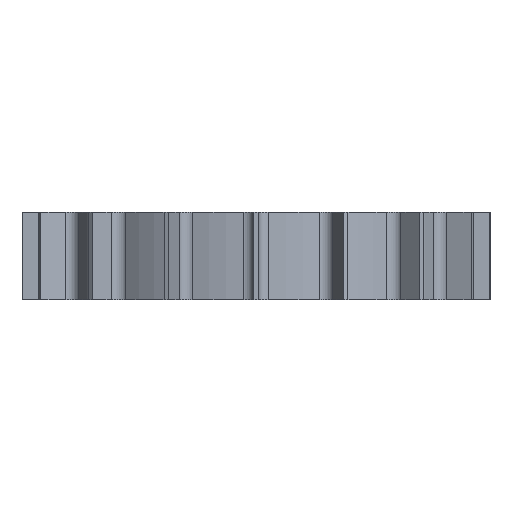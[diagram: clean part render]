
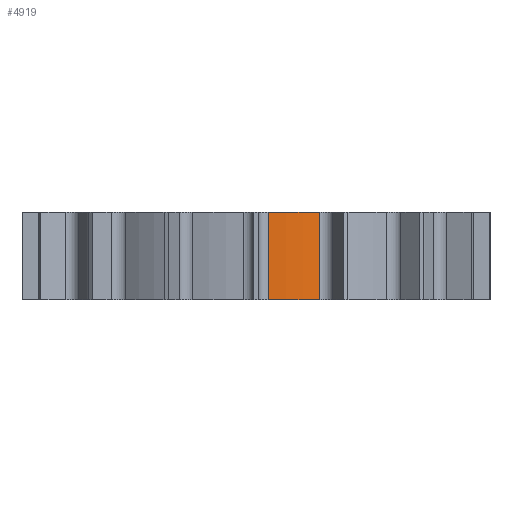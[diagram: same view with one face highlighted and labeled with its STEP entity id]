
A CAD part, front view. The second image highlights one B-rep face of the part: STEP entity #4919.
In plain terms, the highlighted cylindrical face has radius 56.5 mm (diameter 113 mm), a partial arc.
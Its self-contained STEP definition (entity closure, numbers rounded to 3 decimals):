
#43 = EDGE_CURVE ( 'NONE', #939, #5596, #8024, .T. ) ;
#73 = ORIENTED_EDGE ( 'NONE', *, *, #4828, .F. ) ;
#545 = EDGE_LOOP ( 'NONE', ( #2137, #5282, #73, #6822 ) ) ;
#939 = VERTEX_POINT ( 'NONE', #5582 ) ;
#1272 = DIRECTION ( 'NONE',  ( 1., 0., 0. ) ) ;
#1487 = CARTESIAN_POINT ( 'NONE',  ( 18.289, -53.458, 25. ) ) ;
#2137 = ORIENTED_EDGE ( 'NONE', *, *, #43, .T. ) ;
#2454 = CARTESIAN_POINT ( 'NONE',  ( 0., 0., 0. ) ) ;
#2834 = CARTESIAN_POINT ( 'NONE',  ( 18.289, -53.458, 0. ) ) ;
#2892 = AXIS2_PLACEMENT_3D ( 'NONE', #8128, #3492, #8052 ) ;
#3099 = EDGE_CURVE ( 'NONE', #939, #3638, #6302, .T. ) ;
#3173 = VECTOR ( 'NONE', #3222, 1000. ) ;
#3222 = DIRECTION ( 'NONE',  ( 0., 0., 1. ) ) ;
#3492 = DIRECTION ( 'NONE',  ( 0., 0., -1. ) ) ;
#3638 = VERTEX_POINT ( 'NONE', #3652 ) ;
#3652 = CARTESIAN_POINT ( 'NONE',  ( 3.561, -56.388, 25. ) ) ;
#4106 = FACE_OUTER_BOUND ( 'NONE', #545, .T. ) ;
#4285 = AXIS2_PLACEMENT_3D ( 'NONE', #2454, #8378, #7130 ) ;
#4315 = VERTEX_POINT ( 'NONE', #1487 ) ;
#4598 = VECTOR ( 'NONE', #7599, 1000. ) ;
#4828 = EDGE_CURVE ( 'NONE', #3638, #4315, #7466, .T. ) ;
#4919 = ADVANCED_FACE ( 'NONE', ( #4106 ), #7453, .T. ) ;
#5039 = CARTESIAN_POINT ( 'NONE',  ( 3.561, -56.388, -12.781 ) ) ;
#5282 = ORIENTED_EDGE ( 'NONE', *, *, #5289, .T. ) ;
#5289 = EDGE_CURVE ( 'NONE', #5596, #4315, #6527, .T. ) ;
#5582 = CARTESIAN_POINT ( 'NONE',  ( 3.561, -56.388, 0. ) ) ;
#5596 = VERTEX_POINT ( 'NONE', #2834 ) ;
#5986 = CARTESIAN_POINT ( 'NONE',  ( 0., 0., 25. ) ) ;
#6302 = LINE ( 'NONE', #5039, #4598 ) ;
#6527 = LINE ( 'NONE', #7732, #3173 ) ;
#6822 = ORIENTED_EDGE ( 'NONE', *, *, #3099, .F. ) ;
#6906 = AXIS2_PLACEMENT_3D ( 'NONE', #5986, #7187, #1272 ) ;
#7130 = DIRECTION ( 'NONE',  ( 1., 0., 0. ) ) ;
#7187 = DIRECTION ( 'NONE',  ( 0., 0., 1. ) ) ;
#7453 = CYLINDRICAL_SURFACE ( 'NONE', #2892, 56.5 ) ;
#7466 = CIRCLE ( 'NONE', #6906, 56.5 ) ;
#7599 = DIRECTION ( 'NONE',  ( 0., 0., 1. ) ) ;
#7732 = CARTESIAN_POINT ( 'NONE',  ( 18.289, -53.458, -13.992 ) ) ;
#8024 = CIRCLE ( 'NONE', #4285, 56.5 ) ;
#8052 = DIRECTION ( 'NONE',  ( -1., 0., 0. ) ) ;
#8128 = CARTESIAN_POINT ( 'NONE',  ( 0., 0., 25. ) ) ;
#8378 = DIRECTION ( 'NONE',  ( 0., 0., 1. ) ) ;
